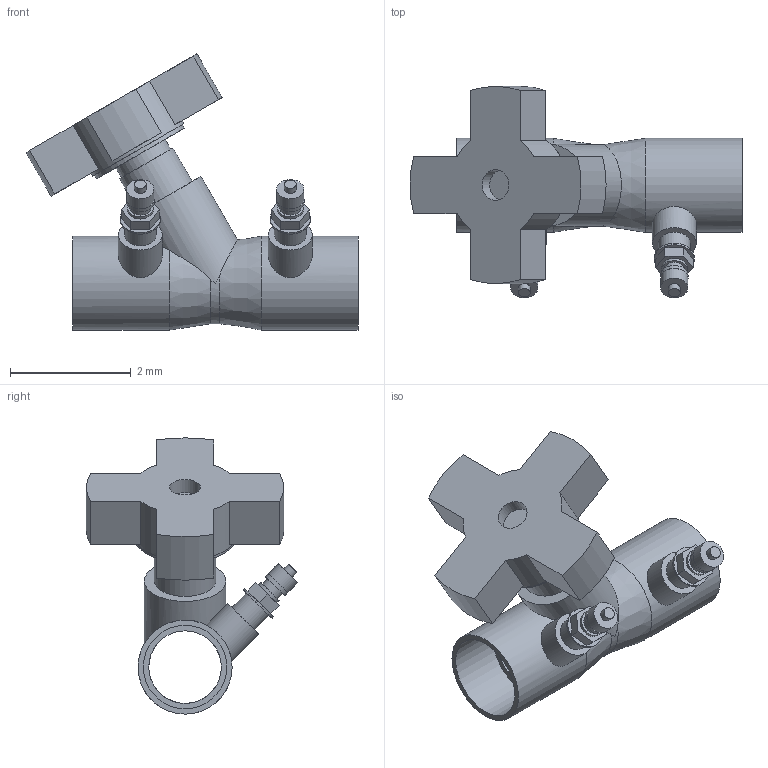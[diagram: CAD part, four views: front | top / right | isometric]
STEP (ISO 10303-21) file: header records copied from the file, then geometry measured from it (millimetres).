
FILE_DESCRIPTION(('Open CASCADE Model'),'2;1');
FILE_NAME('Open CASCADE Shape Model','2021-11-01T13:07:31',('Author'),( 'Open CASCADE'),'Open CASCADE STEP processor 7.3','Open CASCADE 7.3' ,'Unknown');
FILE_SCHEMA(('AUTOMOTIVE_DESIGN { 1 0 10303 214 1 1 1 1 }'));
Length unit declared in the file: millimetre
Products named in the file (3): Open CASCADE STEP translator 7.3 1; Open CASCADE STEP translator 7.3 1.1; Open CASCADE STEP translator 7.3 1.2
Assembly tree (2 placements, depth 2):
  Open CASCADE STEP translator 7.3 1
    Open CASCADE STEP translator 7.3 1.1
    Open CASCADE STEP translator 7.3 1.2
Bounding box: 5.49 x 3.49 x 4.57 mm (x, y, z)
Volume: 10.1 mm3; surface area: 78.8 mm2
Topology: 2 solids, 2 shells, 95 faces, 204 edges, 137 vertices
Faces by surface type: plane 56, cylinder 35, cone 4
Full cylindrical faces by diameter (mm): 0.195 x2, 0.355 x2, 0.43 x2, 0.45 x2, 0.455 x2, 0.51 x1, 0.525 x2, 0.667 x2, 0.725 x2, 0.94 x1, 1.02 x1, 1.2 x2, 1.35 x1, 1.38 x2, 1.555 x2, 1.675 x1, 1.74 x1
Entity records: 6697 total; most frequent: CARTESIAN_POINT 2480, DIRECTION 786, ORIENTED_EDGE 412, PCURVE 408, DEFINITIONAL_REPRESENTATION 408, LINE 355, VECTOR 355, EDGE_CURVE 204
